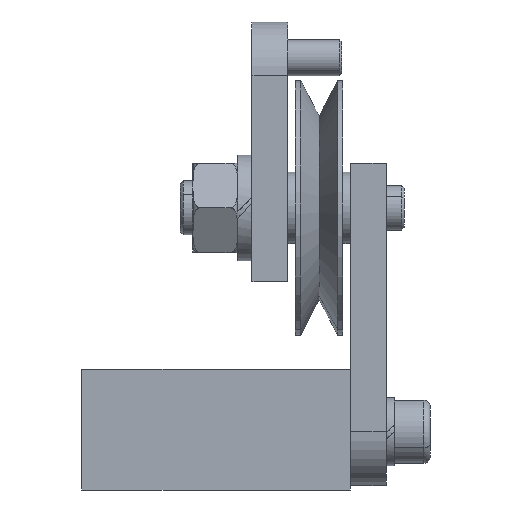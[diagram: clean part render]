
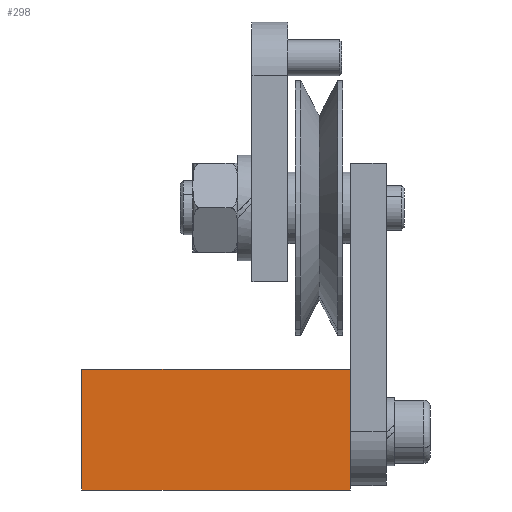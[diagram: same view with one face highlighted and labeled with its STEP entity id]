
A CAD part, front view. The second image highlights one B-rep face of the part: STEP entity #298.
In plain terms, the highlighted planar face has unit normal (0, -1, 0).
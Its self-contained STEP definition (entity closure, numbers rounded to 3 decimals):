
#2=DIRECTION('',(1.,0.,0.));
#3=VECTOR('',#2,30.);
#4=CARTESIAN_POINT('',(0.,0.,0.));
#5=LINE('',#4,#3);
#38=DIRECTION('',(0.,0.,1.));
#39=VECTOR('',#38,13.5);
#40=CARTESIAN_POINT('',(0.,0.,0.));
#41=LINE('',#40,#39);
#50=DIRECTION('',(0.,0.,1.));
#51=VECTOR('',#50,13.5);
#52=CARTESIAN_POINT('',(30.,0.,0.));
#53=LINE('',#52,#51);
#64=DIRECTION('',(1.,0.,0.));
#65=VECTOR('',#64,30.);
#66=CARTESIAN_POINT('',(0.,0.,13.5));
#67=LINE('',#66,#65);
#198=CARTESIAN_POINT('',(0.,0.,0.));
#199=CARTESIAN_POINT('',(30.,0.,0.));
#200=VERTEX_POINT('',#198);
#201=VERTEX_POINT('',#199);
#206=CARTESIAN_POINT('',(0.,0.,13.5));
#207=CARTESIAN_POINT('',(30.,0.,13.5));
#208=VERTEX_POINT('',#206);
#209=VERTEX_POINT('',#207);
#284=CARTESIAN_POINT('',(0.,0.,0.));
#285=DIRECTION('',(0.,-1.,0.));
#286=DIRECTION('',(1.,0.,0.));
#287=AXIS2_PLACEMENT_3D('',#284,#285,#286);
#288=PLANE('',#287);
#289=ORIENTED_EDGE('',*,*,#261,.F.);
#291=ORIENTED_EDGE('',*,*,#290,.T.);
#293=ORIENTED_EDGE('',*,*,#292,.T.);
#295=ORIENTED_EDGE('',*,*,#294,.F.);
#296=EDGE_LOOP('',(#289,#291,#293,#295));
#297=FACE_OUTER_BOUND('',#296,.F.);
#298=ADVANCED_FACE('',(#297),#288,.T.);
#261=EDGE_CURVE('',#200,#201,#5,.T.);
#290=EDGE_CURVE('',#200,#208,#41,.T.);
#292=EDGE_CURVE('',#208,#209,#67,.T.);
#294=EDGE_CURVE('',#201,#209,#53,.T.);
